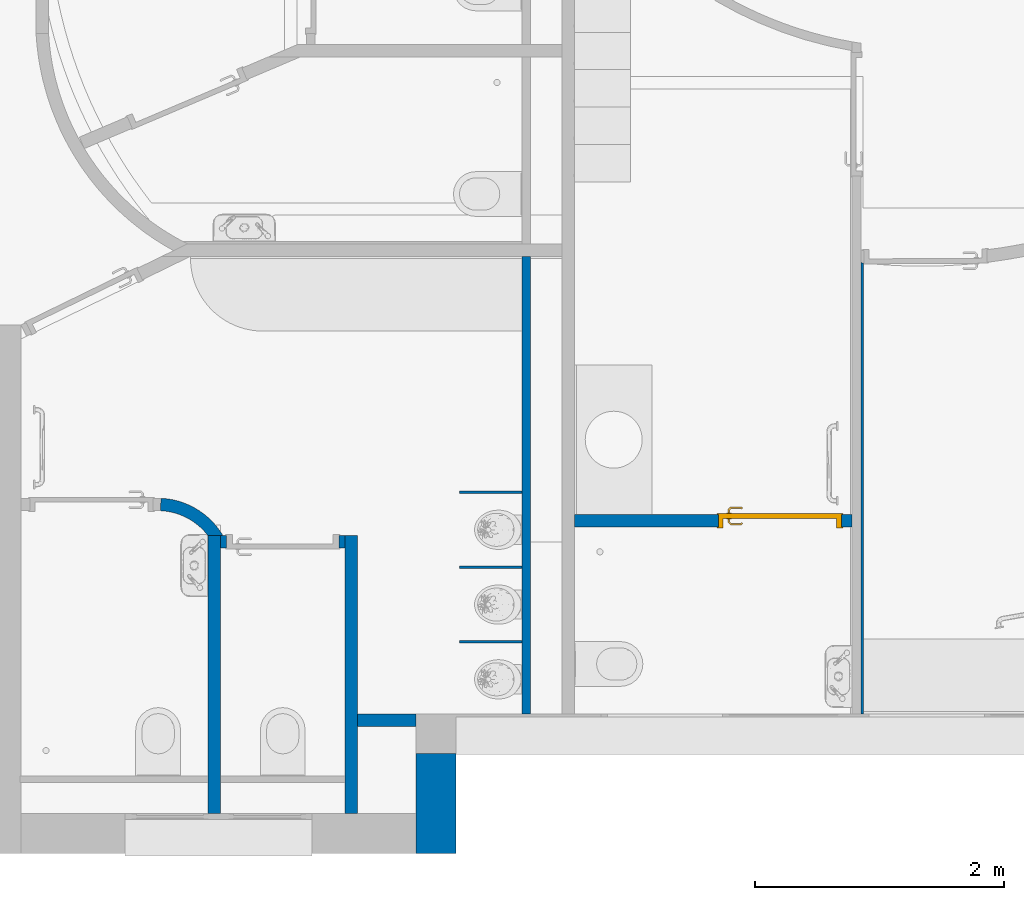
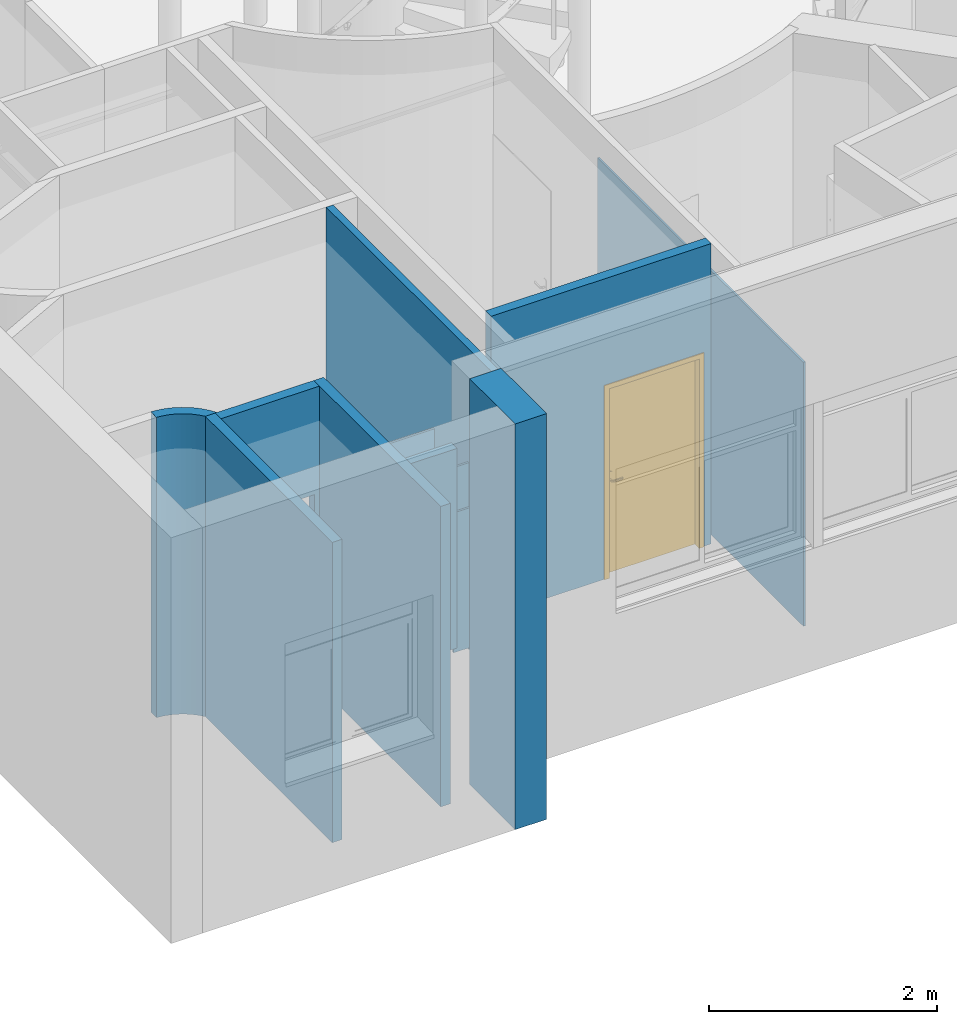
# One storey, part 42 of 137: 12 walls, 1 door, 2 openings.
"""IFC2X3 building model written with IfcOpenShell, lengths in centimetres."""

from ifc_helpers import new_model, entity, si_unit, converted_unit, derived_unit, direction, frame, frame_2d, origin, place, context, subcontext, project, spatial, polyline, circle_curve, parameter, trimmed, segment, composite_curve, rectangle, outline, extrude, faceted_brep, source, transform, mapped, material, material_list, layer, layer_set, layer_usage, type_object, type_shapes, element, fill, save


model = new_model("IFC2X3")

# Units and contexts
model_context = context("Model", 3, precision=0.001, world=origin(), true_north=direction((6.12303176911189e-17, 1.0)))
body_context = subcontext(model_context, "Body", "Model", "MODEL_VIEW")
ifc_project = project(units=[si_unit("LENGTHUNIT", "METRE", prefix="CENTI"), si_unit("AREAUNIT", "SQUARE_METRE"), si_unit("VOLUMEUNIT", "CUBIC_METRE"), converted_unit("PLANEANGLEUNIT", "DEGREE", entity("IfcRatioMeasure", 0.0174532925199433), si_unit("PLANEANGLEUNIT", "RADIAN"), dimensions=[0, 0, 0, 0, 0, 0, 0]), si_unit("MASSUNIT", "GRAM", prefix="KILO"), si_unit("TIMEUNIT", "SECOND"), si_unit("FREQUENCYUNIT", "HERTZ"), si_unit("THERMODYNAMICTEMPERATUREUNIT", "DEGREE_CELSIUS"), derived_unit("THERMALTRANSMITTANCEUNIT", [(si_unit("MASSUNIT", "GRAM", prefix="KILO"), 1), (si_unit("THERMODYNAMICTEMPERATUREUNIT", "KELVIN"), -1), (si_unit("TIMEUNIT", "SECOND"), -3)]), derived_unit("VOLUMETRICFLOWRATEUNIT", [(si_unit("LENGTHUNIT", "METRE"), 3), (si_unit("TIMEUNIT", "SECOND"), -1)]), si_unit("ELECTRICCURRENTUNIT", "AMPERE"), si_unit("ELECTRICVOLTAGEUNIT", "VOLT"), si_unit("POWERUNIT", "WATT"), si_unit("FORCEUNIT", "NEWTON", prefix="KILO"), si_unit("ILLUMINANCEUNIT", "LUX"), si_unit("LUMINOUSFLUXUNIT", "LUMEN"), si_unit("LUMINOUSINTENSITYUNIT", "CANDELA"), derived_unit("USERDEFINED", [(si_unit("MASSUNIT", "GRAM", prefix="KILO"), -1), (si_unit("LENGTHUNIT", "METRE"), -2), (si_unit("TIMEUNIT", "SECOND"), 3), (si_unit("LUMINOUSFLUXUNIT", "LUMEN"), 1)]), derived_unit("LINEARVELOCITYUNIT", [(si_unit("LENGTHUNIT", "METRE"), 1), (si_unit("TIMEUNIT", "SECOND"), -1)]), si_unit("PRESSUREUNIT", "PASCAL"), derived_unit("USERDEFINED", [(si_unit("LENGTHUNIT", "METRE"), -2), (si_unit("MASSUNIT", "GRAM", prefix="KILO"), 1), (si_unit("TIMEUNIT", "SECOND"), -2)])], contexts=[model_context])

# Site, building, storey
site_placement = place(None, frame((8.62739174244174, -249.285249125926, 0.0)))
site = spatial("IfcSite", under=ifc_project, at=site_placement, Name="Default", CompositionType="ELEMENT")
building_placement = place(site_placement, origin())
building = spatial("IfcBuilding", under=site, at=building_placement, CompositionType="ELEMENT")
storey_placement = place(building_placement, origin())
storey = spatial("IfcBuildingStorey", under=building, at=storey_placement, Name="RDC", CompositionType="ELEMENT", Elevation=-8.82465566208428e-11)

# Walls
ifc_material_1 = material(Name="Maçonnerie - Enduit")
ifc_layer_1 = layer(ifc_material_1, 1.0)
ifc_material_2 = material(Name="Maçonnerie")
ifc_layer_2 = layer(ifc_material_2, 20.0)
ifc_material_3 = material(Name="Laine minérale")
ifc_layer_3 = layer(ifc_material_3, 10.0)
ifc_material_4 = material(Name="Plâtre")
ifc_layer_4 = layer(ifc_material_4, 1.0)
ifc_layer_set_1 = layer_set([ifc_layer_1, ifc_layer_2, ifc_layer_3, ifc_layer_4], Name="Mur de base:END 1 + PAR 20 + ISO 10 + PLA 1")
ifc_layer_usage_1 = layer_usage(ifc_layer_set_1, "AXIS2", "POSITIVE", -16.0)
wall_type_1 = type_object("IfcWallType", Name="Mur de base:END 1 + PAR 20 + ISO 10 + PLA 1", PredefinedType="STANDARD", material=ifc_layer_set_1)
wall_1_placement = place(storey_placement, frame((2655.90482780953, -208.019791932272, -25.0), z_axis=(0.0, 0.0, 1.0), x_axis=(0.0, 1.0, 0.0)))
element("IfcWallStandardCase", 1, at=wall_1_placement, inside=storey, type_object=wall_type_1, material=ifc_layer_usage_1, Name="Mur de base:END 1 + PAR 20 + ISO 10 + PLA 1", ObjectType="Mur de base:END 1 + PAR 20 + ISO 10 + PLA 1", context=body_context, shape_type="SweptSolid", body=[
    extrude(rectangle(XDim=80.0000000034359, YDim=31.9999999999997, at=frame_2d((40.000000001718, 0.0), x_axis=(-1.0, 0.0))), origin(), (0.0, 0.0, 1.0), 434.999999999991),
])
ifc_layer_5 = layer(ifc_material_4, 10.0)
ifc_layer_set_2 = layer_set([ifc_layer_5], Name="Mur de base:PLA 10")
ifc_layer_usage_2 = layer_usage(ifc_layer_set_2, "AXIS2", "NEGATIVE", 5.0)
wall_type_2 = type_object("IfcWallType", Name="Mur de base:PLA 10", PredefinedType="STANDARD", material=ifc_layer_set_2)
wall_2_placement = place(storey_placement, frame((2477.9048278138, -176.019791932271, 0.0), z_axis=(0.0, 0.0, 1.0), x_axis=(0.0, 1.0, 0.0)))
element("IfcWallStandardCase", 2, at=wall_2_placement, inside=storey, type_object=wall_type_2, material=ifc_layer_usage_2, Name="Mur de base:PLA 10", ObjectType="Mur de base:PLA 10", context=body_context, shape_type="SweptSolid", body=[
    extrude(rectangle(XDim=223.000000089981, YDim=10.0000000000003, at=frame_2d((111.50000004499, -2.30926389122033e-14), x_axis=(-1.0, 0.0))), origin(), (0.0, 0.0, 1.0), 322.000000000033),
])

# Wall, opening
ifc_layer_usage_3 = layer_usage(ifc_layer_set_2, "AXIS2", "NEGATIVE", 5.0)
wall_3_placement = place(storey_placement, frame((2582.9048278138, 41.9802081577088, 0.0), z_axis=(0.0, 0.0, 1.0), x_axis=(-1.0, 0.0, 0.0)))
wall_3 = element("IfcWallStandardCase", 3, at=wall_3_placement, inside=storey, type_object=wall_type_2, material=ifc_layer_usage_3, Name="Mur de base:PLA 10", ObjectType="Mur de base:PLA 10", context=body_context, shape_type="SweptSolid", body=[
    extrude(rectangle(XDim=99.9999999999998, YDim=10.0, at=frame_2d((49.9999999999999, -1.77635683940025e-15), x_axis=(-1.0, 0.0))), origin(), (0.0, 0.0, 1.0), 322.000000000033),
])
opening_1_placement = place(wall_3_placement, frame((5.0, -5.0, 0.0)))
element("IfcOpeningElement", 4, at=opening_1_placement, cuts=wall_3, Name="Simple(R)_bois_mu:83 x 204 cm:1", ObjectType="Opening", context=body_context, shape_type="SweptSolid", body=[
    extrude(rectangle(XDim=207.499999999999, YDim=89.9999999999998, at=frame_2d((103.749999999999, 45.0), x_axis=(1.0, 0.0))), frame((0.0, 0.0, 0.0), z_axis=(0.0, 1.0, 0.0), x_axis=(0.0, 0.0, 1.0)), (0.0, 0.0, 1.0), 10.0),
])

# Wall
ifc_layer_usage_4 = layer_usage(ifc_layer_set_2, "AXIS2", "NEGATIVE", 5.0)
wall_4_placement = place(storey_placement, frame((2587.9048278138, -176.019791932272, 0.0), z_axis=(0.0, 0.0, 1.0), x_axis=(0.0, 1.0, 0.0)))
element("IfcWallStandardCase", 5, at=wall_4_placement, inside=storey, type_object=wall_type_2, material=ifc_layer_usage_4, Name="Mur de base:PLA 10", ObjectType="Mur de base:PLA 10", context=body_context, shape_type="SweptSolid", body=[
    extrude(rectangle(XDim=223.000000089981, YDim=10.0000000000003, at=frame_2d((111.50000004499, 5.32907051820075e-15), x_axis=(-1.0, 0.0))), origin(), (0.0, 0.0, 1.0), 322.000000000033),
])

# Wall, opening, door
ifc_layer_usage_5 = layer_usage(ifc_layer_set_2, "AXIS2", "NEGATIVE", 5.0)
wall_5_placement = place(storey_placement, frame((2766.90482779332, 58.9802080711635, 0.0)))
wall_5 = element("IfcWallStandardCase", 6, at=wall_5_placement, inside=storey, type_object=wall_type_2, material=ifc_layer_usage_5, Name="Mur de base:PLA 10", ObjectType="Mur de base:PLA 10", context=body_context, shape_type="SweptSolid", body=[
    extrude(rectangle(XDim=223.000000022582, YDim=10.0, at=frame_2d((111.500000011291, 2.66453525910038e-15), x_axis=(-1.0, 0.0))), origin(), (0.0, 0.0, 1.0), 322.000000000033),
])
opening_2_placement = place(wall_5_placement, frame((115.500000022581, -5.0, 0.0)))
opening_2 = element("IfcOpeningElement", 7, at=opening_2_placement, cuts=wall_5, Name="Simple(R)-bois_MU:93x204cm_MU:1", ObjectType="Opening", context=body_context, shape_type="SweptSolid", body=[
    extrude(rectangle(XDim=206.999999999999, YDim=98.9999999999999, at=frame_2d((103.499999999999, 49.4999999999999), x_axis=(1.0, 0.0))), frame((0.0, 0.0, 0.0), z_axis=(0.0, 1.0, 0.0), x_axis=(0.0, 0.0, 1.0)), (0.0, 0.0, 1.0), 10.0),
])
ifc_material_5 = material(Name="Porte-Poignée_MU")
ifc_material_6 = material(Name="Porte-Cadre_MU")
ifc_material_7 = material(Name="Porte Panneau_MU")
ifc_material_list_1 = material_list([ifc_material_5, ifc_material_6, ifc_material_7])
ifc_material_list_2 = material_list([ifc_material_5, ifc_material_6, ifc_material_7])
door_style = type_object("IfcDoorStyle", Name="93x204cm_MU", ConstructionType="NOTDEFINED", OperationType="SINGLE_SWING_LEFT", ParameterTakesPrecedence=False, Sizeable=False, material=ifc_material_list_2)
shared_shape = source(origin(), body_context, "Body", "Brep", [
    faceted_brep([(91.7025298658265, 3.69999999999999, 100.778044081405), (91.2974701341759, 3.69999999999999, 100.778044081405), (90.8999999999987, 3.69999999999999, 100.699999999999), (90.9000000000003, 3.69999999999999, 99.3000000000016), (91.2974701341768, 3.69999999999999, 99.2219559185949), (91.7025298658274, 3.69999999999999, 99.2219559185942), (92.1000000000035, 3.69999999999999, 99.2999999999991), (92.1000000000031, 3.69999999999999, 100.699999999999), (90.8999999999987, 5.94852045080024, 100.699999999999), (90.8999999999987, 5.94852045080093, 99.3000000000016), (91.2974701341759, 6.1131579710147, 100.778044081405), (91.7025298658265, 6.2809392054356, 100.778044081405), (90.0838906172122, 7.89957845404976, 100.778044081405), (89.9161093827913, 7.49451872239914, 100.778044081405), (81.5793122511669, 7.49451872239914, 100.778044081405), (81.4115310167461, 7.89957845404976, 100.778044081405), (80.6451046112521, 7.13315204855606, 100.778044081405), (80.9315250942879, 6.84673156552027, 100.778044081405), (92.1000000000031, 6.44557672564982, 100.699999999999), (92.1000000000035, 6.44557672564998, 99.2999999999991), (91.7025298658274, 6.28093920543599, 99.2219559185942), (91.2974701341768, 6.11315797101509, 99.2219559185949), (89.9161093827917, 7.49451872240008, 99.2219559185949), (90.0838906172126, 7.8995784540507, 99.2219559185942), (81.4115310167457, 7.8995784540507, 99.2219559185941), (81.5793122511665, 7.49451872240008, 99.2219559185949), (80.9315250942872, 6.84673156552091, 99.2219559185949), (80.6451046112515, 7.1331520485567, 99.2219559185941), (89.7514718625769, 7.09704858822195, 100.699999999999), (89.7514718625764, 7.09704858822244, 99.3000000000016), (90.2485281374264, 8.29704858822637, 100.699999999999), (90.2485281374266, 8.29704858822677, 99.2999999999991), (85.7477108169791, 7.09704858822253, 100.699999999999), (81.7439497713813, 7.09704858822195, 100.699999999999), (81.7439497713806, 7.09704858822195, 99.3000000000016), (85.7477108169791, 7.09704858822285, 99.3000000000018), (85.747710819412, 7.71249275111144, 100.787811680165), (85.2399422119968, 8.29704858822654, 100.699999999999), (81.2468934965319, 8.29704858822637, 100.699999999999), (86.2554791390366, 8.29704858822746, 99.2999999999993), (81.2468934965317, 8.29704858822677, 99.2999999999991), (85.7477107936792, 7.71249274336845, 99.2121883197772), (80.3640507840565, 7.41420587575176, 100.699999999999), (80.364050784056, 7.41420587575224, 99.2999999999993), (81.2125789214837, 6.56567773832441, 99.3000000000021), (81.2125789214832, 6.56567773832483, 100.699999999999)], [[[0, 1, 2, 3, 4, 5, 6, 7]], [[8, 9, 3, 2]], [[1, 10, 8, 2]], [[1, 0, 11, 12, 13, 10]], [[14, 15, 16, 17]], [[7, 18, 11, 0]], [[18, 7, 6, 19]], [[6, 5, 20, 19]], [[5, 4, 21, 22, 23, 20]], [[24, 25, 26, 27]], [[4, 3, 9, 21]], [[28, 29, 9, 8]], [[8, 10, 13, 28]], [[18, 30, 12, 11]], [[31, 30, 18, 19]], [[19, 20, 23, 31]], [[21, 9, 29, 22]], [[29, 28, 32, 33, 34, 35]], [[36, 32, 13]], [[37, 38, 15]], [[37, 12, 30]], [[36, 12, 37]], [[14, 32, 36]], [[36, 15, 14]], [[28, 13, 32]], [[32, 14, 33]], [[12, 36, 13]], [[15, 36, 37]], [[30, 31, 39, 40, 38, 37]], [[23, 41, 39]], [[24, 39, 41]], [[39, 31, 23]], [[39, 24, 40]], [[22, 35, 41]], [[41, 23, 22]], [[41, 35, 25]], [[35, 22, 29]], [[34, 25, 35]], [[24, 41, 25]], [[17, 16, 42, 43, 27, 26, 44, 45]], [[45, 44, 34, 33]], [[33, 14, 17, 45]], [[15, 38, 42, 16]], [[43, 42, 38, 40]], [[24, 27, 43, 40]], [[34, 44, 26, 25]]]),
    faceted_brep([(91.2974701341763, -1.30000000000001, 100.778044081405), (91.7025298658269, -1.30000000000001, 100.778044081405), (92.1000000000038, -1.30000000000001, 100.699999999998), (92.1000000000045, -1.30000000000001, 99.2999999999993), (91.7025298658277, -1.30000000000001, 99.2219559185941), (91.2974701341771, -1.30000000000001, 99.2219559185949), (90.899999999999, -1.30000000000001, 99.3000000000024), (90.8999999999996, -1.30000000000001, 100.699999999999), (91.7025298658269, -3.90045754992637, 100.778044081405), (92.100000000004, -4.06509507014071, 100.699999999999), (91.2974701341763, -3.73267631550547, 100.778044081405), (89.9298602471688, -5.10028620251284, 100.778044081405), (90.0976414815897, -5.50534593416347, 100.778044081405), (81.4142453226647, -5.50534593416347, 100.778044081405), (81.5820265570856, -5.10028620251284, 100.778044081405), (80.9342394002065, -4.4524990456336, 100.778044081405), (80.6478189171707, -4.73891952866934, 100.778044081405), (90.8999999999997, -3.56803879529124, 100.699999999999), (90.899999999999, -3.56803879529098, 99.3000000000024), (91.2974701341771, -3.7326763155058, 99.2219559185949), (91.7025298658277, -3.9004575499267, 99.2219559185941), (90.09764148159, -5.50534593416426, 99.2219559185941), (89.9298602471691, -5.10028620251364, 99.2219559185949), (81.5820265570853, -5.10028620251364, 99.2219559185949), (81.4142453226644, -5.50534593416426, 99.2219559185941), (80.6478189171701, -4.73891952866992, 99.2219559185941), (80.9342394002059, -4.45249904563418, 99.2219559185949), (92.1000000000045, -4.06509507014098, 99.2999999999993), (90.2622790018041, -5.90281606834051, 100.699999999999), (89.7652227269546, -4.70281606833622, 100.699999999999), (89.7652227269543, -4.70281606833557, 99.3000000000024), (90.2622790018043, -5.90281606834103, 99.2999999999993), (85.7559433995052, -5.31828027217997, 100.787811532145), (86.2692302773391, -5.90281606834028, 100.699999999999), (81.2496078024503, -5.90281606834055, 100.699999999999), (85.7559434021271, -4.70281606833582, 100.699999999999), (81.7466640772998, -4.70281606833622, 100.699999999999), (85.7559436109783, -4.70281606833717, 99.3000000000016), (81.7466640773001, -4.70281606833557, 99.3000000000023), (85.7559434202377, -5.31828027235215, 99.2121884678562), (85.2426572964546, -5.90281606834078, 99.2999999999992), (81.2496078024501, -5.90281606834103, 99.2999999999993), (81.2152932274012, -4.17144521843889, 99.3000000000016), (80.366765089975, -5.01997335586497, 99.2999999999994), (80.3667650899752, -5.01997335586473, 100.699999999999), (81.2152932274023, -4.17144521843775, 100.699999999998)], [[[0, 1, 2, 3, 4, 5, 6, 7]], [[2, 1, 8, 9]], [[1, 0, 10, 11, 12, 8]], [[13, 14, 15, 16]], [[0, 7, 17, 10]], [[18, 17, 7, 6]], [[5, 19, 18, 6]], [[5, 4, 20, 21, 22, 19]], [[23, 24, 25, 26]], [[3, 27, 20, 4]], [[9, 27, 3, 2]], [[9, 8, 12, 28]], [[10, 17, 29, 11]], [[30, 29, 17, 18]], [[18, 19, 22, 30]], [[20, 27, 31, 21]], [[28, 31, 27, 9]], [[12, 32, 33]], [[13, 33, 32]], [[33, 28, 12]], [[33, 13, 34]], [[11, 35, 32]], [[32, 12, 11]], [[32, 35, 14]], [[35, 11, 29]], [[36, 14, 35]], [[13, 32, 14]], [[29, 30, 37, 38, 36, 35]], [[39, 37, 22]], [[40, 41, 24]], [[40, 21, 31]], [[39, 21, 40]], [[23, 37, 39]], [[39, 24, 23]], [[30, 22, 37]], [[37, 23, 38]], [[21, 39, 22]], [[24, 39, 40]], [[31, 28, 33, 34, 41, 40]], [[42, 26, 25, 43, 44, 16, 15, 45]], [[13, 16, 44, 34]], [[36, 45, 15, 14]], [[42, 45, 36, 38]], [[38, 23, 26, 42]], [[24, 41, 43, 25]], [[44, 43, 41, 34]]]),
    faceted_brep([(91.5000000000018, 3.19999999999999, 86.4641016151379), (92.5352761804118, 3.19999999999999, 86.6003983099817), (93.5000000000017, 3.19999999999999, 87.0), (93.5000000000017, 3.19999999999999, 108.0), (92.5352761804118, 3.19999999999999, 108.399601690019), (91.5000000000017, 3.19999999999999, 108.535898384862), (90.4647238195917, 3.19999999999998, 108.399601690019), (89.5000000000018, 3.19999999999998, 108.0), (89.5000000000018, 3.19999999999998, 87.0), (90.4647238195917, 3.19999999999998, 86.6003983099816), (91.5000000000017, 3.69999999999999, 108.535898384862), (92.5352761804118, 3.69999999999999, 108.399601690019), (93.5000000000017, 3.69999999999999, 108.0), (93.5000000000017, 3.69999999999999, 87.0), (92.5352761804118, 3.69999999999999, 86.6003983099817), (91.5000000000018, 3.69999999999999, 86.4641016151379), (90.4647238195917, 3.69999999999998, 86.6003983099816), (89.5000000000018, 3.69999999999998, 87.0), (89.5000000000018, 3.69999999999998, 108.0), (90.4647238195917, 3.69999999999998, 108.399601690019)], [[[0, 1, 2, 3, 4, 5, 6, 7, 8, 9]], [[10, 11, 12, 13, 14, 15, 16, 17, 18, 19]], [[6, 19, 18, 7]], [[5, 10, 19, 6]], [[4, 11, 10, 5]], [[4, 3, 12, 11]], [[12, 3, 2, 13]], [[1, 14, 13, 2]], [[0, 15, 14, 1]], [[9, 16, 15, 0]], [[9, 8, 17, 16]], [[17, 8, 7, 18]]]),
    faceted_brep([(91.5000000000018, -1.30000000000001, 86.4641016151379), (92.5352761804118, -1.30000000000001, 86.6003983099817), (93.5000000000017, -1.3, 87.0), (93.5000000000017, -1.3, 108.0), (92.5352761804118, -1.30000000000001, 108.399601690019), (91.5000000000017, -1.30000000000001, 108.535898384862), (90.4647238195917, -1.30000000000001, 108.399601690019), (89.5000000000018, -1.30000000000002, 108.0), (89.5000000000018, -1.30000000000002, 87.0), (90.4647238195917, -1.30000000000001, 86.6003983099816), (93.5000000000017, -0.800000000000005, 108.0), (93.5000000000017, -0.800000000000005, 87.0), (92.5352761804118, -0.800000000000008, 86.6003983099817), (91.5000000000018, -0.800000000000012, 86.4641016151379), (90.4647238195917, -0.800000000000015, 86.6003983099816), (89.5000000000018, -0.800000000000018, 87.0), (89.5000000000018, -0.800000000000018, 108.0), (90.4647238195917, -0.800000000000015, 108.399601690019), (91.5000000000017, -0.800000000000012, 108.535898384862), (92.5352761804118, -0.800000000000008, 108.399601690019)], [[[0, 1, 2, 3, 4, 5, 6, 7, 8, 9]], [[10, 11, 12, 13, 14, 15, 16, 17, 18, 19]], [[1, 12, 11, 2]], [[0, 13, 12, 1]], [[9, 14, 13, 0]], [[9, 8, 15, 14]], [[15, 8, 7, 16]], [[6, 17, 16, 7]], [[5, 18, 17, 6]], [[4, 19, 18, 5]], [[4, 3, 10, 19]], [[10, 3, 2, 11]]]),
    faceted_brep([(100.0, 0.0, 0.0), (101.0, 0.0, 0.0), (101.0, -0.799999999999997, 0.0), (97.0, -0.799999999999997, 0.0), (97.0, 3.2, 0.0), (96.0, 3.2, 0.0), (96.0, 10.8000000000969, 0.0), (101.0, 10.8000000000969, 0.0), (101.0, 10.0, 0.0), (100.0, 10.0, 0.0), (100.0, 10.0, 207.0), (100.0, 0.0, 207.0), (101.0, 10.0, 208.0), (0.0, 10.0, 208.0), (0.0, 10.0, 0.0), (1.0, 10.0, 0.0), (1.0, 10.0, 207.0), (101.0, 10.8000000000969, 208.0), (96.0, 10.8000000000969, 203.0), (5.0, 10.8000000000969, 203.0), (5.0, 10.8000000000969, 0.0), (0.0, 10.8000000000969, 0.0), (0.0, 10.8000000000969, 208.0), (96.0, 3.2, 203.0), (97.0, 3.2, 204.0), (4.0, 3.2, 204.0), (4.0, 3.2, 0.0), (5.0, 3.2, 0.0), (5.0, 3.2, 203.0), (97.0, -0.799999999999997, 204.0), (101.0, -0.799999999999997, 208.0), (0.0, -0.799999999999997, 208.0), (0.0, -0.799999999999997, 0.0), (4.0, -0.799999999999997, 0.0), (4.0, -0.799999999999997, 204.0), (101.0, 0.0, 208.0), (1.0, 0.0, 207.0), (1.0, 0.0, 0.0), (0.0, 0.0, 0.0), (0.0, 0.0, 208.0)], [[[0, 1, 2, 3, 4, 5, 6, 7, 8, 9]], [[9, 10, 11, 0]], [[8, 12, 13, 14, 15, 16, 10, 9]], [[7, 17, 12, 8]], [[6, 18, 19, 20, 21, 22, 17, 7]], [[5, 23, 18, 6]], [[4, 24, 25, 26, 27, 28, 23, 5]], [[3, 29, 24, 4]], [[2, 30, 31, 32, 33, 34, 29, 3]], [[1, 35, 30, 2]], [[0, 11, 36, 37, 38, 39, 35, 1]], [[16, 15, 37, 36]], [[37, 15, 14, 21, 20, 27, 26, 33, 32, 38]], [[22, 21, 14, 13]], [[28, 27, 20, 19]], [[34, 33, 26, 25]], [[39, 38, 32, 31]], [[10, 16, 36, 11]], [[17, 22, 13, 12]], [[23, 28, 19, 18]], [[29, 34, 25, 24]], [[35, 39, 31, 30]]]),
    faceted_brep([(97.0, -0.799999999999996, 204.0), (4.0, -0.799999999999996, 204.0), (4.0, -0.799999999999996, 0.0), (97.0, -0.799999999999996, 0.0), (97.0, 3.2, 204.0), (97.0, 3.2, 0.0), (4.0, 3.2, 0.0), (4.0, 3.2, 204.0)], [[[0, 1, 2, 3]], [[4, 5, 6, 7]], [[3, 5, 4, 0]], [[2, 6, 5, 3]], [[1, 7, 6, 2]], [[0, 4, 7, 1]]]),
])
type_shapes(door_style, [shared_shape])
door_placement = place(opening_2_placement, frame((100.0, 10.0, 0.0), z_axis=(0.0, 0.0, 1.0), x_axis=(-1.0, 0.0, 0.0)))
door = element("IfcDoor", 8, at=door_placement, inside=storey, type_object=door_style, material=ifc_material_list_1, Name="Simple(R)-bois_MU:93x204cm_MU", ObjectType="93x204cm_MU", OverallHeight=206.999999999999, OverallWidth=99.0, context=body_context, shape_type="MappedRepresentation", body=[
    mapped(shared_shape, transform((0.0, 0.0, 0.0), scale=1.0)),
])
fill(opening_2, door)

# Walls
ifc_layer_usage_6 = layer_usage(ifc_layer_set_2, "AXIS2", "NEGATIVE", 5.0)
wall_6_placement = place(storey_placement, frame((2639.90482780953, -101.019791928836, 108.0), z_axis=(0.0, 0.0, 1.0), x_axis=(-1.0, 0.0, 0.0)))
element("IfcWallStandardCase", 9, at=wall_6_placement, inside=storey, type_object=wall_type_2, material=ifc_layer_usage_6, Name="Mur de base:PLA 10", ObjectType="Mur de base:PLA 10", context=body_context, shape_type="SweptSolid", body=[
    extrude(rectangle(XDim=46.9999999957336, YDim=10.0, at=frame_2d((23.4999999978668, 3.10862446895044e-15), x_axis=(-1.0, 0.0))), origin(), (0.0, 0.0, 1.0), 214.000000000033),
])
ifc_layer_usage_7 = layer_usage(ifc_layer_set_2, "AXIS2", "POSITIVE", -5.0)
wall_7_placement = place(storey_placement, frame((2434.86459926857, 71.9850389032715, 0.0), z_axis=(0.0, 0.0, 1.0), x_axis=(0.0, 1.0, 0.0)))
element("IfcWallStandardCase", 10, at=wall_7_placement, inside=storey, type_object=wall_type_2, material=ifc_layer_usage_7, Name="Mur de base:PLA 10", ObjectType="Mur de base:PLA 10", context=body_context, shape_type="SweptSolid", body=[
    extrude(outline(composite_curve([segment(trimmed(circle_curve(frame_2d((-55.8559473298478, 2.45709383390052), x_axis=(1.0, 0.0)), 60.9099647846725), [parameter(300.431215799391)], [parameter(357.481192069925)], True, "PARAMETER"), True, "CONTINUOUS"), segment(polyline([(4.99516924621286, -0.219736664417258), (-5.00483075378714, 0.00996136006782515)]), True, "CONTINUOUS"), segment(trimmed(circle_curve(frame_2d((-55.8559473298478, 2.45709383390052), x_axis=(1.0, 0.0)), 50.9099647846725), [parameter(307.300379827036)], [parameter(357.244853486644)], True, "PARAMETER"), False, "CONTINUOUS"), segment(polyline([(-25.0048307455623, -38.0402285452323), (-25.0048307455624, -48.0402285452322)]), True, "CONTINUOUS"), segment(polyline([(-25.0048307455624, -48.0402285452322), (-25.0048307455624, -50.0617829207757)]), True, "CONTINUOUS")], self_intersect=False)), origin(), (0.0, 0.0, 1.0), 322.000000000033),
])
ifc_layer_6 = layer(ifc_material_4, 7.0)
ifc_layer_set_3 = layer_set([ifc_layer_6], Name="Mur de base:PLA 7")
ifc_layer_usage_8 = layer_usage(ifc_layer_set_3, "AXIS2", "NEGATIVE", 3.5)
wall_type_3 = type_object("IfcWallType", Name="Mur de base:PLA 7", PredefinedType="STANDARD", material=ifc_layer_set_3)
wall_8_placement = place(storey_placement, frame((2728.40482779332, -96.0197919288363, 0.0), z_axis=(0.0, 0.0, 1.0), x_axis=(0.0, 1.0, 0.0)))
element("IfcWallStandardCase", 11, at=wall_8_placement, inside=storey, type_object=wall_type_3, material=ifc_layer_usage_8, Name="Mur de base:PLA 7", ObjectType="Mur de base:PLA 7", context=body_context, shape_type="SweptSolid", body=[
    extrude(rectangle(XDim=367.148360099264, YDim=7.00000000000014, at=frame_2d((183.574180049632, 0.0), x_axis=(-1.0, 0.0))), origin(), (0.0, 0.0, 1.0), 322.000000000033),
])
ifc_material_8 = material(Name="Stratifié, ivoire, mat")
ifc_layer_7 = layer(ifc_material_8, 2.0)
ifc_layer_set_4 = layer_set([ifc_layer_7], Name="Mur de base:STRAT 2")
ifc_layer_usage_9 = layer_usage(ifc_layer_set_4, "AXIS2", "NEGATIVE", 1.0)
wall_type_4 = type_object("IfcWallType", Name="Mur de base:STRAT 2", PredefinedType="STANDARD", material=ifc_layer_set_4)
wall_9_placement = place(storey_placement, frame((2724.90482779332, -38.33315181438, 50.0), z_axis=(0.0, 0.0, 1.0), x_axis=(-1.0, 0.0, 0.0)))
element("IfcWallStandardCase", 12, at=wall_9_placement, inside=storey, type_object=wall_type_4, material=ifc_layer_usage_9, Name="Mur de base:STRAT 2", ObjectType="Mur de base:STRAT 2", context=body_context, shape_type="SweptSolid", body=[
    extrude(rectangle(XDim=49.9999999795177, YDim=2.00000000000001, at=frame_2d((24.9999999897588, 0.0), x_axis=(-1.0, 0.0))), origin(), (0.0, 0.0, 1.0), 150.0),
])
ifc_layer_usage_10 = layer_usage(ifc_layer_set_4, "AXIS2", "NEGATIVE", 1.0)
wall_10_placement = place(storey_placement, frame((2724.90482779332, 21.6668481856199, 50.0), z_axis=(0.0, 0.0, 1.0), x_axis=(-1.0, 0.0, 0.0)))
element("IfcWallStandardCase", 13, at=wall_10_placement, inside=storey, type_object=wall_type_4, material=ifc_layer_usage_10, Name="Mur de base:STRAT 2", ObjectType="Mur de base:STRAT 2", context=body_context, shape_type="SweptSolid", body=[
    extrude(rectangle(XDim=49.9999999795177, YDim=2.0, at=frame_2d((24.9999999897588, 0.0), x_axis=(-1.0, 0.0))), origin(), (0.0, 0.0, 1.0), 150.0),
])
ifc_layer_usage_11 = layer_usage(ifc_layer_set_4, "AXIS2", "NEGATIVE", 1.0)
wall_11_placement = place(storey_placement, frame((2724.90482779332, 81.6668481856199, 50.0), z_axis=(0.0, 0.0, 1.0), x_axis=(-1.0, 0.0, 0.0)))
element("IfcWallStandardCase", 14, at=wall_11_placement, inside=storey, type_object=wall_type_4, material=ifc_layer_usage_11, Name="Mur de base:STRAT 2", ObjectType="Mur de base:STRAT 2", context=body_context, shape_type="SweptSolid", body=[
    extrude(rectangle(XDim=49.9999999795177, YDim=2.00000000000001, at=frame_2d((24.9999999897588, 0.0), x_axis=(-1.0, 0.0))), origin(), (0.0, 0.0, 1.0), 150.0),
])
ifc_material_9 = material(Name="MU_carrelage_mural")
ifc_layer_8 = layer(ifc_material_9, 2.0)
ifc_layer_set_5 = layer_set([ifc_layer_8], Name="Mur de base:CAR 2")
ifc_layer_usage_12 = layer_usage(ifc_layer_set_5, "AXIS2", "NEGATIVE", 1.0)
wall_type_5 = type_object("IfcWallType", Name="Mur de base:CAR 2", PredefinedType="STANDARD", material=ifc_layer_set_5)
wall_12_placement = place(storey_placement, frame((2997.9048278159, -96.0197919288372, 0.0), z_axis=(0.0, 0.0, 1.0), x_axis=(0.0, 1.0, 0.0)))
element("IfcWallStandardCase", 15, at=wall_12_placement, inside=storey, type_object=wall_type_5, material=ifc_layer_usage_12, Name="Mur de base:CAR 2", ObjectType="Mur de base:CAR 2", context=body_context, shape_type="SweptSolid", body=[
    extrude(outline(composite_curve([segment(trimmed(circle_curve(frame_2d((787.535115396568, -48.4427182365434), x_axis=(0.0, -1.0)), 428.32050976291), [parameter(263.371346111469)], [parameter(263.640610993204)], True, "PARAMETER"), False, "CONTINUOUS"), segment(polyline([(362.077859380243, 1.0), (0.0, 1.0)]), True, "CONTINUOUS"), segment(polyline([(0.0, 1.0), (0.0, -1.0)]), True, "CONTINUOUS"), segment(polyline([(0.0, -1.0), (361.850199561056, -1.0)]), True, "CONTINUOUS")], self_intersect=False)), origin(), (0.0, 0.0, 1.0), 283.000000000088),
])

save(model, "model.ifc")
